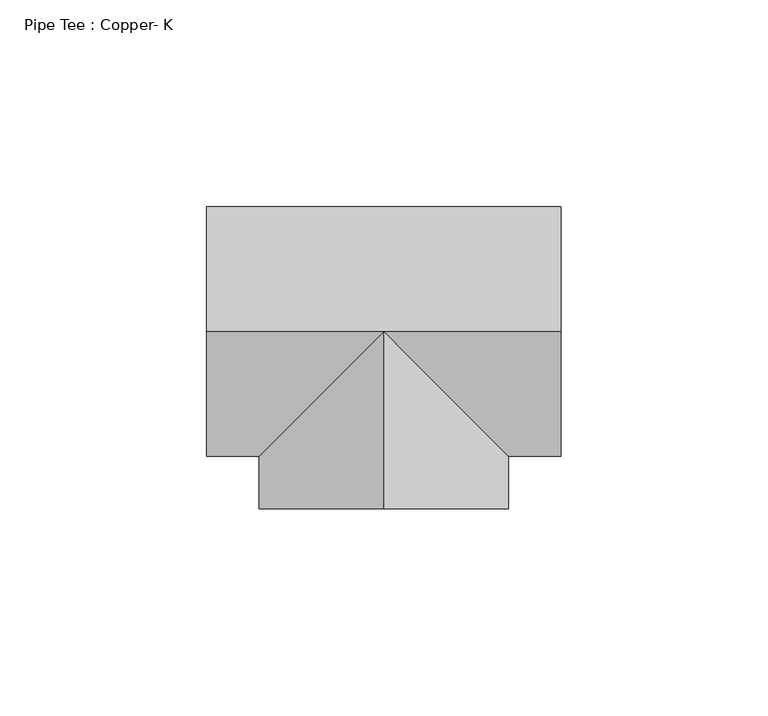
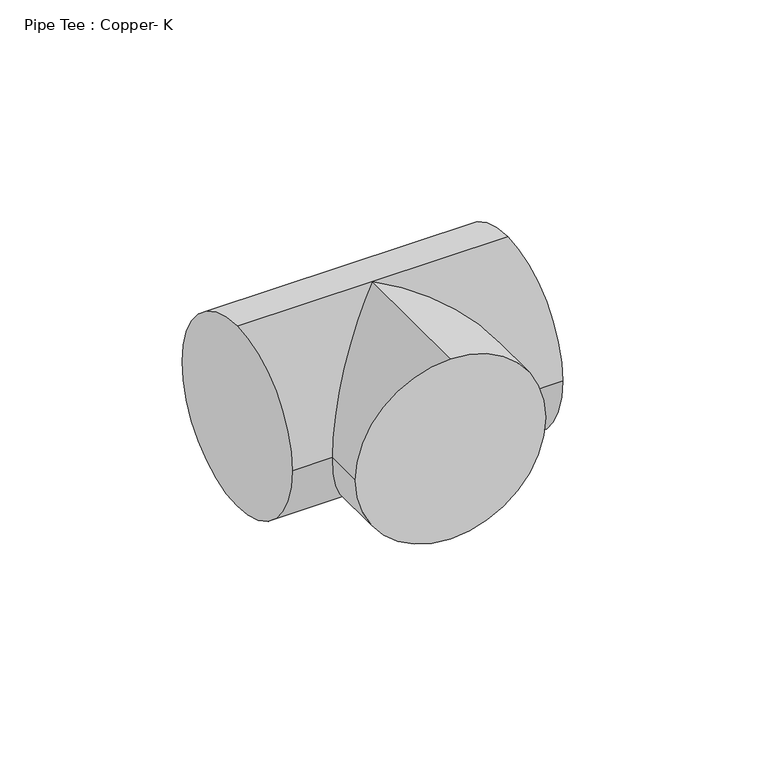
"""IFC4 building model written with IfcOpenShell, lengths in millimetres: pipe fitting geometry, Pipe Tee : Copper- K."""

from ifc_helpers import new_model, si_unit, frame, origin, place, context, project, spatial, circle_curve, ellipse_curve, source, transform, mapped, element, save
from ifc_brep_helpers import plane_surface, cylinder_surface, advanced_brep


def pipe_tee_copper_k_6c1f9b63(model_context):
    return source(origin(), model_context, "Body", "AdvancedBrep", [
        advanced_brep(
        [(-42.8625, 0.0, 30.1625), (-42.8625, 30.1625, 0.0), (-42.8625, 0.0, -30.1625), (-42.8625, -30.1625, 0.0), (42.8625, 0.0, 30.1625), (42.8625, -30.1625, 0.0), (42.8625, 0.0, -30.1625), (42.8625, 30.1625, 0.0), (0.0, 0.0, 30.1625), (0.0, 0.0, -30.1625), (-30.1622041, -30.1625, 0.0), (30.1627959, -30.1625, 0.0), (0.0004205, -42.8625, 30.1625), (-30.1620795, -42.8627959, 0.0), (0.0004205, -42.8625, -30.1625), (30.1629205, -42.8622041, 0.0)],
        [
            (0, 1, circle_curve(frame((-42.8625, 0.0, 0.0), z_axis=(-1.0, 0.0, 0.0), x_axis=(0.0, 1.0, 0.0)), 30.1625)),
            (1, 2, circle_curve(frame((-42.8625, 0.0, 0.0), z_axis=(-1.0, 0.0, 0.0), x_axis=(0.0, 1.0, 0.0)), 30.1625)),
            (2, 3, circle_curve(frame((-42.8625, 0.0, 0.0), z_axis=(-1.0, 0.0, 0.0), x_axis=(0.0, 1.0, 0.0)), 30.1625)),
            (3, 0, circle_curve(frame((-42.8625, 0.0, 0.0), z_axis=(-1.0, 0.0, 0.0), x_axis=(0.0, 1.0, 0.0)), 30.1625)),
            (4, 5, circle_curve(frame((42.8625, 0.0, 0.0), z_axis=(1.0, 0.0, 0.0), x_axis=(0.0, 1.0, 0.0)), 30.1625)),
            (5, 6, circle_curve(frame((42.8625, 0.0, 0.0), z_axis=(1.0, 0.0, 0.0), x_axis=(0.0, 1.0, 0.0)), 30.1625)),
            (6, 7, circle_curve(frame((42.8625, 0.0, 0.0), z_axis=(1.0, 0.0, 0.0), x_axis=(0.0, 1.0, 0.0)), 30.1625)),
            (7, 4, circle_curve(frame((42.8625, 0.0, 0.0), z_axis=(1.0, 0.0, 0.0), x_axis=(0.0, 1.0, 0.0)), 30.1625)),
            (0, 8),
            (8, 4),
            (7, 1),
            (6, 9),
            (9, 2),
            (9, 10, ellipse_curve(frame((0.0, 0.0, 0.0), z_axis=(-0.7071102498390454, 0.7071033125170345, 0.0), x_axis=(-0.7071033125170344, -0.7071102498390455, 0.0)), 42.6560073, 30.1625)),
            (10, 3),
            (5, 11),
            (11, 9, ellipse_curve(frame((0.0, 0.0, 0.0), z_axis=(0.7071033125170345, 0.7071102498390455, 0.0), x_axis=(-0.7071102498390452, 0.7071033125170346, 0.0)), 42.6564258, 30.1625)),
            (10, 8, ellipse_curve(frame((0.0, 0.0, 0.0), z_axis=(-0.7071102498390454, 0.7071033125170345, 0.0), x_axis=(-0.7071033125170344, -0.7071102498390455, 0.0)), 42.6560073, 30.1625)),
            (8, 11, ellipse_curve(frame((0.0, 0.0, 0.0), z_axis=(0.7071033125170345, 0.7071102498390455, 0.0), x_axis=(-0.7071102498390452, 0.7071033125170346, 0.0)), 42.6564258, 30.1625)),
            (12, 13, circle_curve(frame((0.0004205, -42.8625, 0.0), z_axis=(9.81085487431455e-06, -0.9999999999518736, 0.0), x_axis=(0.9999999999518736, 9.81085487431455e-06, 0.0)), 30.1625)),
            (13, 14, circle_curve(frame((0.0004205, -42.8625, 0.0), z_axis=(9.81085487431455e-06, -0.9999999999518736, 0.0), x_axis=(0.9999999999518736, 9.81085487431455e-06, 0.0)), 30.1625)),
            (14, 15, circle_curve(frame((0.0004205, -42.8625, 0.0), z_axis=(9.81085487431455e-06, -0.9999999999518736, 0.0), x_axis=(0.9999999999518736, 9.81085487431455e-06, 0.0)), 30.1625)),
            (15, 12, circle_curve(frame((0.0004205, -42.8625, 0.0), z_axis=(9.81085487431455e-06, -0.9999999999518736, 0.0), x_axis=(0.9999999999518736, 9.81085487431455e-06, 0.0)), 30.1625)),
            (15, 11),
            (8, 12),
            (14, 9),
            (13, 10),
        ],
        [
            plane_surface(frame((-42.8625, 0.0, 0.0), z_axis=(-1.0, 0.0, 0.0), x_axis=(0.0, 0.0, 1.0))),
            plane_surface(frame((42.8625, 0.0, 0.0), z_axis=(1.0, 0.0, 0.0), x_axis=(0.0, 0.0, 1.0))),
            cylinder_surface(frame((-42.8625, 0.0, 0.0), z_axis=(-1.0, 0.0, 0.0), x_axis=(0.0, 1.0, 0.0)), 30.1625),
            plane_surface(frame((0.0004205, -42.8625, 0.0), z_axis=(9.81085487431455e-06, -0.9999999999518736, 0.0), x_axis=(0.0, 0.0, 1.0))),
            cylinder_surface(frame((0.0, 0.0, 0.0), z_axis=(-9.81085487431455e-06, 0.9999999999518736, 0.0), x_axis=(0.9999999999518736, 9.81085487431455e-06, 0.0)), 30.1625),
        ],
        [
            (0, [[1, 2, 3, 4]]),
            (1, [[5, 6, 7, 8]]),
            (2, [[-1, 9, 10, -8, 11]]),
            (2, [[-2, -11, -7, 12, 13]]),
            (2, [[-3, -13, 14, 15]]),
            (2, [[-6, 16, 17, -12]]),
            (2, [[-4, -15, 18, -9]]),
            (2, [[-5, -10, 19, -16]]),
            (3, [[20, 21, 22, 23]]),
            (4, [[-23, 24, -19, 25]]),
            (4, [[-22, 26, -17, -24]]),
            (4, [[-21, 27, -14, -26]]),
            (4, [[-20, -25, -18, -27]]),
        ],
    ),
        advanced_brep(
        [(-42.8625, 0.0, 30.1625), (-42.8625, 30.1625, 0.0), (-42.8625, 0.0, -30.1625), (-42.8625, -30.1625, 0.0), (42.8625, 0.0, 30.1625), (42.8625, -30.1625, 0.0), (42.8625, 0.0, -30.1625), (42.8625, 30.1625, 0.0), (0.0, 0.0, 30.1625), (0.0, 0.0, -30.1625), (-30.1622041, -30.1625, 0.0), (30.1627959, -30.1625, 0.0), (0.0004205, -42.8625, 30.1625), (-30.1620795, -42.8627959, 0.0), (0.0004205, -42.8625, -30.1625), (30.1629205, -42.8622041, 0.0)],
        [
            (0, 1, circle_curve(frame((-42.8625, 0.0, 0.0), z_axis=(-1.0, 0.0, 0.0), x_axis=(0.0, 1.0, 0.0)), 30.1625)),
            (1, 2, circle_curve(frame((-42.8625, 0.0, 0.0), z_axis=(-1.0, 0.0, 0.0), x_axis=(0.0, 1.0, 0.0)), 30.1625)),
            (2, 3, circle_curve(frame((-42.8625, 0.0, 0.0), z_axis=(-1.0, 0.0, 0.0), x_axis=(0.0, 1.0, 0.0)), 30.1625)),
            (3, 0, circle_curve(frame((-42.8625, 0.0, 0.0), z_axis=(-1.0, 0.0, 0.0), x_axis=(0.0, 1.0, 0.0)), 30.1625)),
            (4, 5, circle_curve(frame((42.8625, 0.0, 0.0), z_axis=(1.0, 0.0, 0.0), x_axis=(0.0, 1.0, 0.0)), 30.1625)),
            (5, 6, circle_curve(frame((42.8625, 0.0, 0.0), z_axis=(1.0, 0.0, 0.0), x_axis=(0.0, 1.0, 0.0)), 30.1625)),
            (6, 7, circle_curve(frame((42.8625, 0.0, 0.0), z_axis=(1.0, 0.0, 0.0), x_axis=(0.0, 1.0, 0.0)), 30.1625)),
            (7, 4, circle_curve(frame((42.8625, 0.0, 0.0), z_axis=(1.0, 0.0, 0.0), x_axis=(0.0, 1.0, 0.0)), 30.1625)),
            (0, 8),
            (8, 4),
            (7, 1),
            (6, 9),
            (9, 2),
            (9, 10, ellipse_curve(frame((0.0, 0.0, 0.0), z_axis=(-0.7071102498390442, 0.7071033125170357, 0.0), x_axis=(-0.7071033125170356, -0.7071102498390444, 0.0)), 42.6560073, 30.1625)),
            (10, 3),
            (5, 11),
            (11, 9, ellipse_curve(frame((0.0, 0.0, 0.0), z_axis=(0.7071033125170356, 0.7071102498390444, 0.0), x_axis=(-0.707110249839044, 0.7071033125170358, 0.0)), 42.6564258, 30.1625)),
            (10, 8, ellipse_curve(frame((0.0, 0.0, 0.0), z_axis=(-0.7071102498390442, 0.7071033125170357, 0.0), x_axis=(-0.7071033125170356, -0.7071102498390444, 0.0)), 42.6560073, 30.1625)),
            (8, 11, ellipse_curve(frame((0.0, 0.0, 0.0), z_axis=(0.7071033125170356, 0.7071102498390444, 0.0), x_axis=(-0.707110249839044, 0.7071033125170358, 0.0)), 42.6564258, 30.1625)),
            (12, 13, circle_curve(frame((0.0004205, -42.8625, 0.0), z_axis=(9.81085487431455e-06, -0.9999999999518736, 0.0), x_axis=(0.9999999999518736, 9.81085487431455e-06, 0.0)), 30.1625)),
            (13, 14, circle_curve(frame((0.0004205, -42.8625, 0.0), z_axis=(9.81085487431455e-06, -0.9999999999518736, 0.0), x_axis=(0.9999999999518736, 9.81085487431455e-06, 0.0)), 30.1625)),
            (14, 15, circle_curve(frame((0.0004205, -42.8625, 0.0), z_axis=(9.81085487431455e-06, -0.9999999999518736, 0.0), x_axis=(0.9999999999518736, 9.81085487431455e-06, 0.0)), 30.1625)),
            (15, 12, circle_curve(frame((0.0004205, -42.8625, 0.0), z_axis=(9.81085487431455e-06, -0.9999999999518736, 0.0), x_axis=(0.9999999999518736, 9.81085487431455e-06, 0.0)), 30.1625)),
            (15, 11),
            (8, 12),
            (14, 9),
            (13, 10),
        ],
        [
            plane_surface(frame((-42.8625, 0.0, 0.0), z_axis=(-1.0, 0.0, 0.0), x_axis=(0.0, 0.0, 1.0))),
            plane_surface(frame((42.8625, 0.0, 0.0), z_axis=(1.0, 0.0, 0.0), x_axis=(0.0, 0.0, 1.0))),
            cylinder_surface(frame((-42.8625, 0.0, 0.0), z_axis=(-1.0, 0.0, 0.0), x_axis=(0.0, 1.0, 0.0)), 30.1625),
            plane_surface(frame((0.0004205, -42.8625, 0.0), z_axis=(9.81085487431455e-06, -0.9999999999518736, 0.0), x_axis=(0.0, 0.0, 1.0))),
            cylinder_surface(frame((0.0, 0.0, 0.0), z_axis=(-9.81085487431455e-06, 0.9999999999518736, 0.0), x_axis=(0.9999999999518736, 9.81085487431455e-06, 0.0)), 30.1625),
        ],
        [
            (0, [[1, 2, 3, 4]]),
            (1, [[5, 6, 7, 8]]),
            (2, [[-1, 9, 10, -8, 11]]),
            (2, [[-2, -11, -7, 12, 13]]),
            (2, [[-3, -13, 14, 15]]),
            (2, [[-6, 16, 17, -12]]),
            (2, [[-4, -15, 18, -9]]),
            (2, [[-5, -10, 19, -16]]),
            (3, [[20, 21, 22, 23]]),
            (4, [[-23, 24, -19, 25]]),
            (4, [[-22, 26, -17, -24]]),
            (4, [[-21, 27, -14, -26]]),
            (4, [[-20, -25, -18, -27]]),
        ],
    ),
    ])


if __name__ == "__main__":
    model = new_model("IFC4")
    model_context = context("Model", 3, world=origin())
    ifc_project = project(units=[si_unit("LENGTHUNIT", "METRE", prefix="MILLI")], contexts=[model_context])
    site = spatial("IfcSite", under=ifc_project)
    building = spatial("IfcBuilding", under=site)
    placement = place(None, origin())
    pipe_tee_copper_k_shape = pipe_tee_copper_k_6c1f9b63(model_context)
    element("IfcPipeFitting", 1, ObjectType="Pipe Tee : Copper- K", at=placement, inside=building, context=model_context, shape_type="MappedRepresentation", body=[
        mapped(pipe_tee_copper_k_shape, transform((0.0, 0.0, 0.0), x_axis=(1.0, 0.0, 0.0), y_axis=(0.0, 1.0, 0.0), z_axis=(0.0, 0.0, 1.0))),
    ])
    save(model, "model.ifc")
